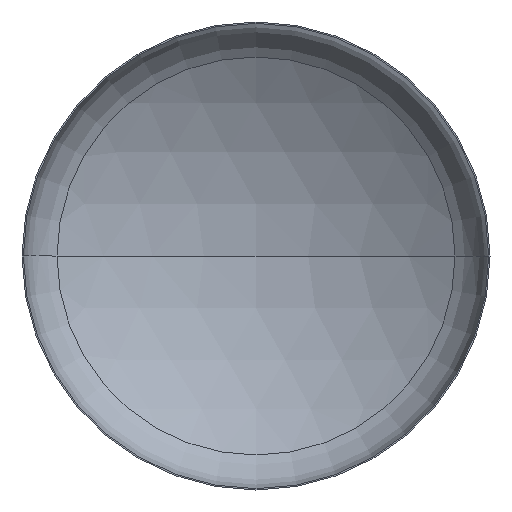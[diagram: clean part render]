
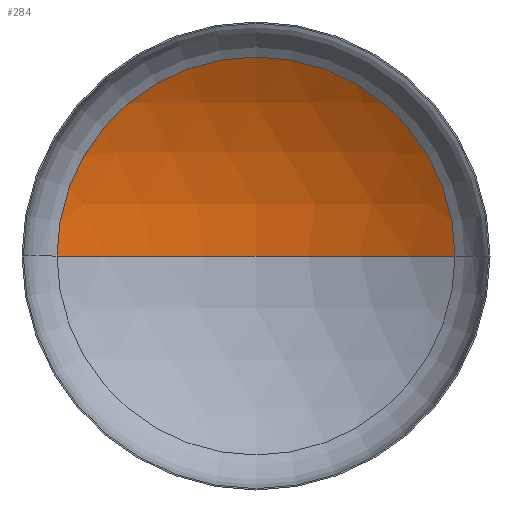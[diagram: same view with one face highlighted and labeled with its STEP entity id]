
A CAD part, front view. The second image highlights one B-rep face of the part: STEP entity #284.
In plain terms, the highlighted spherical face has radius 1120 mm.
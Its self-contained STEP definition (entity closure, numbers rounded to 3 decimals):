
#13 = ORIENTED_EDGE ( 'NONE', *, *, #318, .T. ) ;
#23 = AXIS2_PLACEMENT_3D ( 'NONE', #240, #238, #249 ) ;
#25 = AXIS2_PLACEMENT_3D ( 'NONE', #371, #236, #235 ) ;
#27 = DIRECTION ( 'NONE',  ( -1., 0., 0. ) ) ;
#28 = AXIS2_PLACEMENT_3D ( 'NONE', #370, #363, #366 ) ;
#53 = ORIENTED_EDGE ( 'NONE', *, *, #320, .T. ) ;
#63 = AXIS2_PLACEMENT_3D ( 'NONE', #299, #394, #27 ) ;
#65 = ORIENTED_EDGE ( 'NONE', *, *, #329, .F. ) ;
#74 = CIRCLE ( 'NONE', #25, 1120. ) ;
#98 = VERTEX_POINT ( 'NONE', #257 ) ;
#106 = EDGE_LOOP ( 'NONE', ( #65, #53, #13 ) ) ;
#123 = VERTEX_POINT ( 'NONE', #273 ) ;
#235 = DIRECTION ( 'NONE',  ( -1., 0., 0. ) ) ;
#236 = DIRECTION ( 'NONE',  ( 0., 0., -1. ) ) ;
#238 = DIRECTION ( 'NONE',  ( 0., 0., 1. ) ) ;
#240 = CARTESIAN_POINT ( 'NONE',  ( 0., -746.592, 0. ) ) ;
#242 = CIRCLE ( 'NONE', #28, 595.271 ) ;
#244 = CARTESIAN_POINT ( 'NONE',  ( 0., 373.408, 0. ) ) ;
#249 = DIRECTION ( 'NONE',  ( 1., 0., 0. ) ) ;
#251 = FACE_OUTER_BOUND ( 'NONE', #106, .T. ) ;
#257 = CARTESIAN_POINT ( 'NONE',  ( -595.271, 202.119, 0. ) ) ;
#273 = CARTESIAN_POINT ( 'NONE',  ( 595.271, 202.119, 0. ) ) ;
#284 = ADVANCED_FACE ( 'NONE', ( #251 ), #341, .F. ) ;
#297 = CIRCLE ( 'NONE', #23, 1120. ) ;
#299 = CARTESIAN_POINT ( 'NONE',  ( 0., -746.592, 0. ) ) ;
#318 = EDGE_CURVE ( 'NONE', #123, #98, #242, .T. ) ;
#320 = EDGE_CURVE ( 'NONE', #365, #123, #74, .T. ) ;
#329 = EDGE_CURVE ( 'NONE', #365, #98, #297, .T. ) ;
#341 = SPHERICAL_SURFACE ( 'NONE', #63, 1120. ) ;
#363 = DIRECTION ( 'NONE',  ( 0., -1., 0. ) ) ;
#365 = VERTEX_POINT ( 'NONE', #244 ) ;
#366 = DIRECTION ( 'NONE',  ( 1., 0., 0. ) ) ;
#370 = CARTESIAN_POINT ( 'NONE',  ( 0., 202.119, 0. ) ) ;
#371 = CARTESIAN_POINT ( 'NONE',  ( 0., -746.592, 0. ) ) ;
#394 = DIRECTION ( 'NONE',  ( 0., 0., -1. ) ) ;
